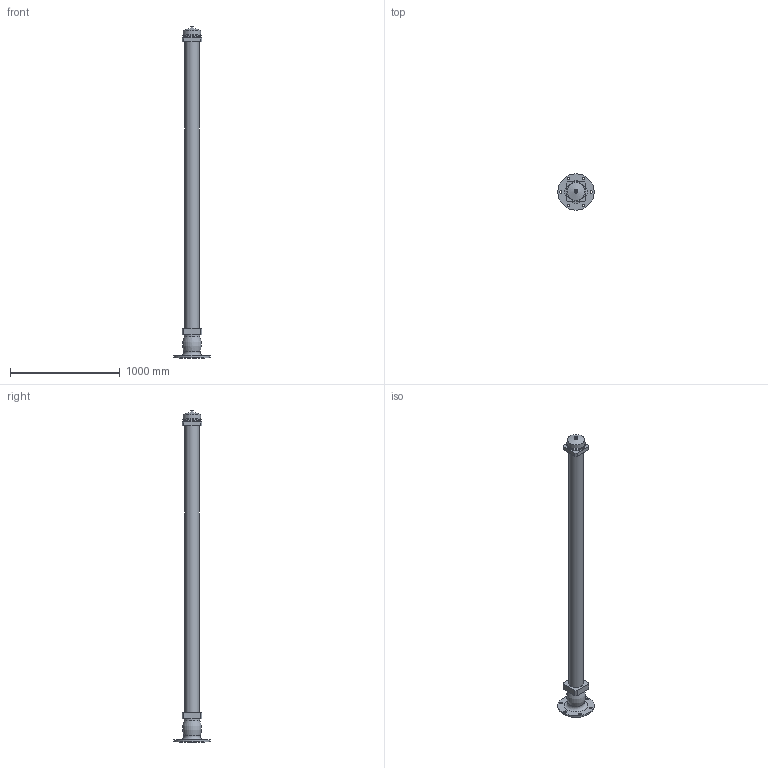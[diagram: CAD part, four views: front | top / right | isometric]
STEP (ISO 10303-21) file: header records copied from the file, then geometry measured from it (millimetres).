
FILE_DESCRIPTION(('STEP AP203'), '1');
FILE_NAME('Ãèäðàíò GPP 3000 ïîæàðíûé ïîäçåìíûé', '', ('UNSPECIFIED'), ('UNSPECIFIED'), 'ASCON STEP Converter 1.6', 'ASCON Math Kernel', '');
FILE_SCHEMA(('CONFIG_CONTROL_DESIGN'));
Length unit declared in the file: millimetre
Bounding box: 330 x 330 x 3022 mm (x, y, z)
Volume: 43878469.8 mm3; surface area: 1516113.3 mm2
Topology: 1 solids, 1 shells, 47 faces, 104 edges, 67 vertices
Faces by surface type: plane 26, cylinder 12, cone 7, torus 2
Full cylindrical faces by diameter (mm): 20 x1, 22 x6, 129 x1, 142 x1, 143 x1, 157.302 x1, 160 x1
Entity records: 1617 total; most frequent: DIRECTION 212, CARTESIAN_POINT 196, ORIENTED_EDGE 164, EDGE_LOOP 88, AXIS2_PLACEMENT_3D 82, EDGE_CURVE 82, VERTEX_POINT 66, COLOUR_RGB 48
